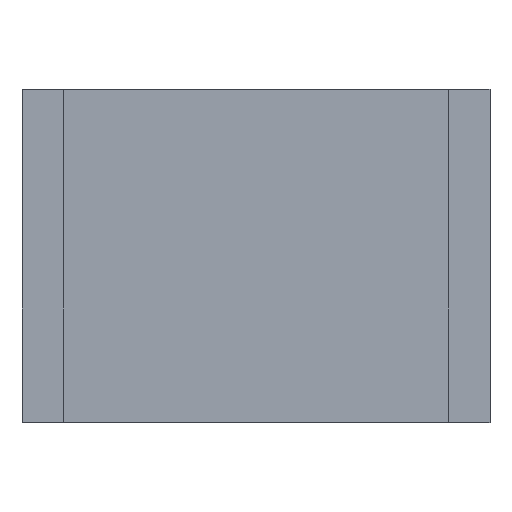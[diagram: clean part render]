
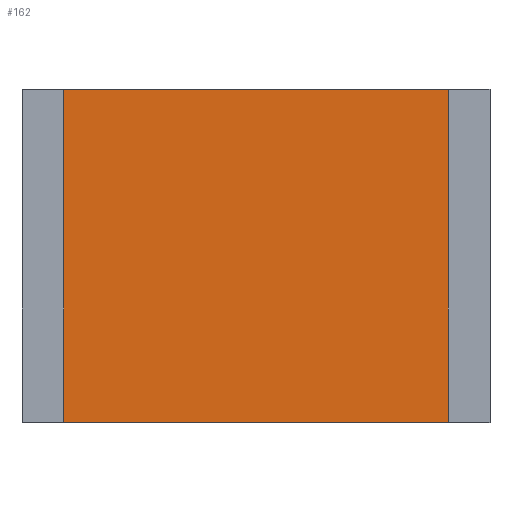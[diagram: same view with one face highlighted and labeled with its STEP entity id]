
A CAD part, top view. The second image highlights one B-rep face of the part: STEP entity #162.
In plain terms, the highlighted planar face has unit normal (0, 0, 1).
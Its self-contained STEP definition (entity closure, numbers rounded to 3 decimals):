
#68=CARTESIAN_POINT('',(-2.05,-1.6,1.37));
#69=VERTEX_POINT('',#68);
#70=CARTESIAN_POINT('',(-2.05,1.6,1.37));
#71=VERTEX_POINT('',#70);
#72=CARTESIAN_POINT('',(-2.05,-1.6,1.37));
#73=CARTESIAN_POINT('',(-2.05,1.6,1.37));
#74=B_SPLINE_CURVE_WITH_KNOTS('',1,(#72,#73),.UNSPECIFIED.,.F.,.F.,(2,2),(0.,1.),.UNSPECIFIED.);
#75=EDGE_CURVE('',#69,#71,#74,.T.);
#96=CARTESIAN_POINT('',(2.05,-1.6,1.37));
#97=VERTEX_POINT('',#96);
#98=CARTESIAN_POINT('',(2.05,-1.6,1.37));
#99=CARTESIAN_POINT('',(-2.05,-1.6,1.37));
#100=B_SPLINE_CURVE_WITH_KNOTS('',1,(#98,#99),.UNSPECIFIED.,.F.,.F.,(2,2),(0.,1.),.UNSPECIFIED.);
#101=EDGE_CURVE('',#97,#69,#100,.T.);
#118=CARTESIAN_POINT('',(2.05,1.6,1.37));
#119=VERTEX_POINT('',#118);
#120=CARTESIAN_POINT('',(2.05,1.6,1.37));
#121=CARTESIAN_POINT('',(-2.05,1.6,1.37));
#122=B_SPLINE_CURVE_WITH_KNOTS('',1,(#120,#121),.UNSPECIFIED.,.F.,.F.,(2,2),(0.,1.),.UNSPECIFIED.);
#123=EDGE_CURVE('',#119,#71,#122,.T.);
#140=CARTESIAN_POINT('',(2.05,1.6,1.37));
#141=CARTESIAN_POINT('',(2.05,-1.6,1.37));
#142=B_SPLINE_CURVE_WITH_KNOTS('',1,(#140,#141),.UNSPECIFIED.,.F.,.F.,(2,2),(0.,1.),.UNSPECIFIED.);
#143=EDGE_CURVE('',#119,#97,#142,.T.);
#151=CARTESIAN_POINT('',(0.,0.,1.37));
#152=DIRECTION('',(0.,0.,1.));
#153=DIRECTION('',(0.788,0.615,0.));
#154=AXIS2_PLACEMENT_3D('',#151,#152,#153);
#155=PLANE('',#154);
#156=ORIENTED_EDGE('',*,*,#123,.T.);
#157=ORIENTED_EDGE('',*,*,#75,.F.);
#158=ORIENTED_EDGE('',*,*,#101,.F.);
#159=ORIENTED_EDGE('',*,*,#143,.F.);
#160=EDGE_LOOP('',(#156,#157,#158,#159));
#161=FACE_BOUND('',#160,.T.);
#162=ADVANCED_FACE(' DE      199',(#161),#155,.T.);
